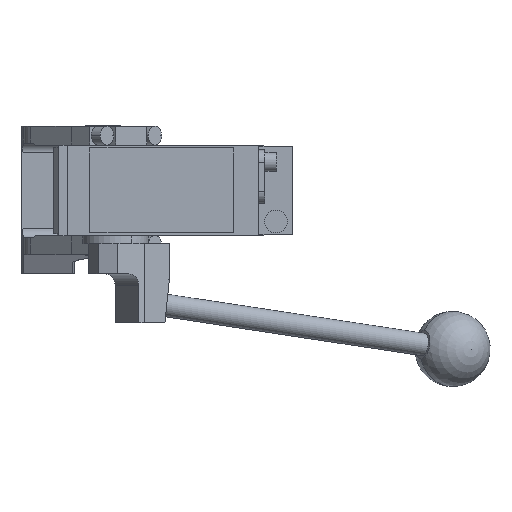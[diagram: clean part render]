
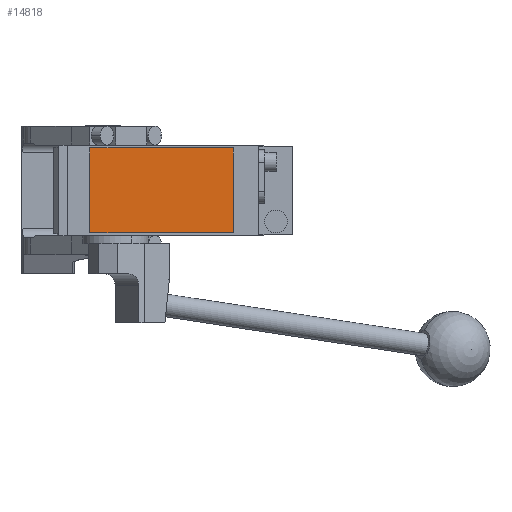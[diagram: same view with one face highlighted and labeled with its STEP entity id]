
A CAD part, front view. The second image highlights one B-rep face of the part: STEP entity #14818.
In plain terms, the highlighted planar face has unit normal (0, -1, 0).
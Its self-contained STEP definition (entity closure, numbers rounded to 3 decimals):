
#290 = DIRECTION ( 'NONE',  ( 0., 0., -1. ) ) ;
#907 = CARTESIAN_POINT ( 'NONE',  ( 69., -280.5, 22.5 ) ) ;
#1108 = LINE ( 'NONE', #4452, #13392 ) ;
#1258 = EDGE_CURVE ( 'NONE', #1632, #4229, #10956, .T. ) ;
#1632 = VERTEX_POINT ( 'NONE', #8536 ) ;
#2157 = DIRECTION ( 'NONE',  ( -1., 0., 0. ) ) ;
#2498 = DIRECTION ( 'NONE',  ( 0., -1., 0. ) ) ;
#3018 = CARTESIAN_POINT ( 'NONE',  ( -7., -280.5, 22.5 ) ) ;
#4229 = VERTEX_POINT ( 'NONE', #907 ) ;
#4374 = DIRECTION ( 'NONE',  ( 0., 0., -1. ) ) ;
#4452 = CARTESIAN_POINT ( 'NONE',  ( -7., -280.5, 22.5 ) ) ;
#4536 = EDGE_CURVE ( 'NONE', #5379, #8531, #1108, .T. ) ;
#4606 = CARTESIAN_POINT ( 'NONE',  ( -7., -280.5, -22.5 ) ) ;
#5008 = ORIENTED_EDGE ( 'NONE', *, *, #7782, .T. ) ;
#5379 = VERTEX_POINT ( 'NONE', #3018 ) ;
#5523 = VECTOR ( 'NONE', #2157, 1000. ) ;
#5636 = CARTESIAN_POINT ( 'NONE',  ( -7., -280.5, 22.5 ) ) ;
#7097 = CARTESIAN_POINT ( 'NONE',  ( 0., -280.5, 0. ) ) ;
#7316 = ORIENTED_EDGE ( 'NONE', *, *, #4536, .T. ) ;
#7559 = ORIENTED_EDGE ( 'NONE', *, *, #10605, .T. ) ;
#7733 = DIRECTION ( 'NONE',  ( 1., 0., 0. ) ) ;
#7782 = EDGE_CURVE ( 'NONE', #8531, #1632, #11349, .T. ) ;
#8018 = LINE ( 'NONE', #5636, #5523 ) ;
#8284 = PLANE ( 'NONE',  #11789 ) ;
#8531 = VERTEX_POINT ( 'NONE', #4606 ) ;
#8536 = CARTESIAN_POINT ( 'NONE',  ( 69., -280.5, -22.5 ) ) ;
#8577 = EDGE_LOOP ( 'NONE', ( #7316, #5008, #13231, #7559 ) ) ;
#8901 = CARTESIAN_POINT ( 'NONE',  ( 69., -280.5, 22.5 ) ) ;
#10605 = EDGE_CURVE ( 'NONE', #4229, #5379, #8018, .T. ) ;
#10956 = LINE ( 'NONE', #8901, #14792 ) ;
#11283 = CARTESIAN_POINT ( 'NONE',  ( -7., -280.5, -22.5 ) ) ;
#11349 = LINE ( 'NONE', #11283, #13792 ) ;
#11789 = AXIS2_PLACEMENT_3D ( 'NONE', #7097, #2498, #290 ) ;
#13231 = ORIENTED_EDGE ( 'NONE', *, *, #1258, .T. ) ;
#13392 = VECTOR ( 'NONE', #4374, 1000. ) ;
#13517 = DIRECTION ( 'NONE',  ( 0., 0., 1. ) ) ;
#13792 = VECTOR ( 'NONE', #7733, 1000. ) ;
#13963 = FACE_OUTER_BOUND ( 'NONE', #8577, .T. ) ;
#14792 = VECTOR ( 'NONE', #13517, 1000. ) ;
#14818 = ADVANCED_FACE ( 'NONE', ( #13963 ), #8284, .T. ) ;
